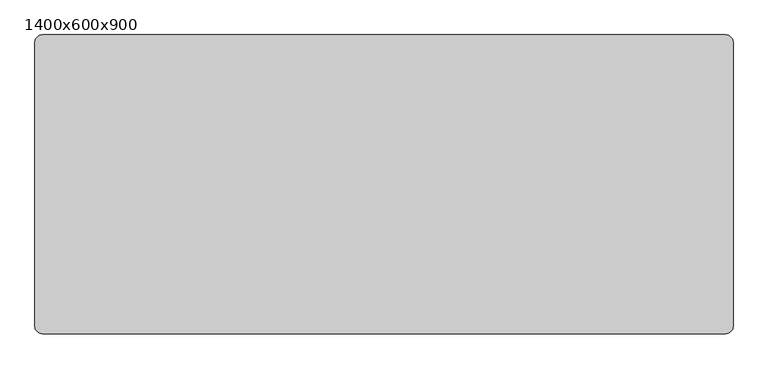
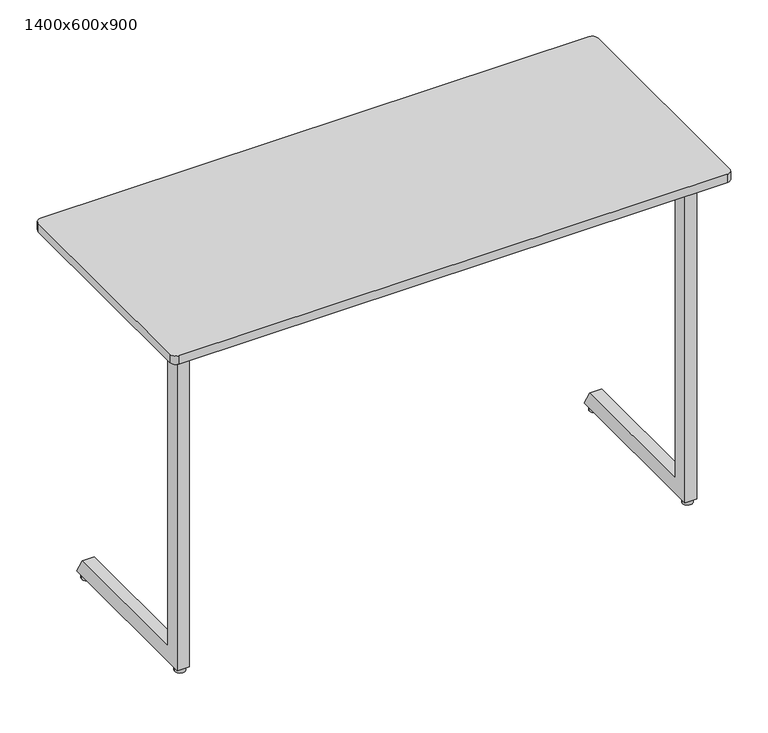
"""IFC4 building model written with IfcOpenShell, lengths in millimetres: furniture geometry, Trivia Light : 1400x600x900."""

from ifc_helpers import new_model, si_unit, point, frame, frame_2d, origin, origin_with_axes, place, context, project, spatial, polyline, circle_curve, trimmed, segment, composite_curve, outline, extrude, source, transform, mapped, element, save


def furniture_1400x600x900_4bad6f9f(model_context):
    return source(origin(), model_context, "Body", "SweptSolid", [
        extrude(outline(polyline([(484.5100173, 878.0), (469.9996059, 846.4981092), (104.0, 846.4977978), (104.0, 878.0), (484.5100173, 878.0)])), frame((-564.7535601, 0.0, 0.0), z_axis=(1.0, 0.0, 0.0), x_axis=(0.0, 1.0, 0.0)), (0.0, 0.0, 1.0), 30.0),
        extrude(outline(polyline([(873.7997437, -567.7502136), (850.730957, -567.7502136), (850.730957, -599.8065042), (855.0394353, -611.6439509), (852.2203574, -612.6700113), (847.730957, -600.3354852), (847.730957, -564.7502136), (873.7997437, -564.7502136), (873.7997437, -567.7502136)])), frame((0.0, 265.0, 0.0), z_axis=(0.0, 1.0, 0.0), x_axis=(0.0, 0.0, 1.0)), (0.0, 0.0, 1.0), 30.0),
        extrude(outline(polyline([(873.7997437, 567.7535601), (873.7997437, 564.7535601), (847.730957, 564.7535601), (847.730957, 600.3388316), (852.2203574, 612.6733577), (855.0394353, 611.6472973), (850.730957, 599.8098507), (850.730957, 567.7535601), (873.7997437, 567.7535601)])), frame((0.0, 265.0, 0.0), z_axis=(0.0, 1.0, 0.0), x_axis=(0.0, 0.0, 1.0)), (0.0, 0.0, 1.0), 30.0),
        extrude(outline(composite_curve([segment(trimmed(circle_curve(frame_2d((-635.0, 85.0)), 13.0), [point((-648.0, 85.0))], [point((-622.0, 85.0))], False, "CARTESIAN"), True, "CONTINUOUS"), segment(trimmed(circle_curve(frame_2d((-635.0, 85.0)), 13.0), [point((-622.0, 85.0))], [point((-648.0, 85.0))], False, "CARTESIAN"), True, "CONTINUOUS")], self_intersect=False)), origin_with_axes(), (0.0, 0.0, 1.0), 13.0905762),
        extrude(outline(composite_curve([segment(trimmed(circle_curve(frame_2d((635.0, 85.0)), 13.0), [point((622.0, 85.0))], [point((648.0, 85.0))], False, "CARTESIAN"), True, "CONTINUOUS"), segment(trimmed(circle_curve(frame_2d((635.0, 85.0)), 13.0), [point((648.0, 85.0))], [point((622.0, 85.0))], False, "CARTESIAN"), True, "CONTINUOUS")], self_intersect=False)), origin_with_axes(), (0.0, 0.0, 1.0), 13.0905762),
        extrude(outline(composite_curve([segment(trimmed(circle_curve(frame_2d((635.0, 487.5)), 13.0), [point((622.0, 487.5))], [point((648.0, 487.5))], False, "CARTESIAN"), True, "CONTINUOUS"), segment(trimmed(circle_curve(frame_2d((635.0, 487.5)), 13.0), [point((648.0, 487.5))], [point((622.0, 487.5))], False, "CARTESIAN"), True, "CONTINUOUS")], self_intersect=False)), origin_with_axes(), (0.0, 0.0, 1.0), 13.0905762),
        extrude(outline(composite_curve([segment(trimmed(circle_curve(frame_2d((-635.0, 487.5)), 13.0), [point((-648.0, 487.5))], [point((-622.0, 487.5))], False, "CARTESIAN"), True, "CONTINUOUS"), segment(trimmed(circle_curve(frame_2d((-635.0, 487.5)), 13.0), [point((-622.0, 487.5))], [point((-648.0, 487.5))], False, "CARTESIAN"), True, "CONTINUOUS")], self_intersect=False)), origin_with_axes(), (0.0, 0.0, 1.0), 13.0905762),
        extrude(outline(polyline([(484.5100173, 878.0), (469.9996059, 846.4981092), (104.0, 846.4977978), (104.0, 878.0), (484.5100173, 878.0)])), frame((534.7535601, 0.0, 0.0), z_axis=(1.0, 0.0, 0.0), x_axis=(0.0, 1.0, 0.0)), (0.0, 0.0, 1.0), 30.0),
        extrude(outline(composite_curve([segment(trimmed(circle_curve(frame_2d((685.0, 585.0)), 15.0), [point((685.0, 600.0))], [point((700.0, 585.0))], False, "CARTESIAN"), True, "CONTINUOUS"), segment(polyline([(700.0, 585.0), (700.0, 15.0)]), True, "CONTINUOUS"), segment(trimmed(circle_curve(frame_2d((685.0, 15.0)), 15.0), [point((700.0, 15.0))], [point((685.0, 0.0))], False, "CARTESIAN"), True, "CONTINUOUS"), segment(polyline([(685.0, 0.0), (-685.0, 0.0)]), True, "CONTINUOUS"), segment(trimmed(circle_curve(frame_2d((-685.0, 15.0)), 15.0), [point((-685.0, 0.0))], [point((-700.0, 15.0))], False, "CARTESIAN"), True, "CONTINUOUS"), segment(polyline([(-700.0, 15.0), (-700.0, 585.0)]), True, "CONTINUOUS"), segment(trimmed(circle_curve(frame_2d((-685.0, 585.0)), 15.0), [point((-700.0, 585.0))], [point((-685.0, 600.0))], False, "CARTESIAN"), True, "CONTINUOUS"), segment(polyline([(-685.0, 600.0), (685.0, 600.0)]), True, "CONTINUOUS")], self_intersect=False)), frame((0.0, 0.0, 878.0), z_axis=(0.0, 0.0, 1.0), x_axis=(1.0, 0.0, 0.0)), (0.0, 0.0, 1.0), 22.0),
        extrude(outline(polyline([(619.7534307, 104.0), (619.7534307, 74.0), (-619.7534307, 74.0), (-619.7534307, 104.0), (619.7534307, 104.0)])), frame((0.0, 0.0, 836.0), z_axis=(0.0, 0.0, 1.0), x_axis=(1.0, 0.0, 0.0)), (0.0, 0.0, 1.0), 42.0),
        extrude(outline(polyline([(112.0, 51.5905762), (482.1448423, 51.5905762), (504.8944033, 11.5905762), (70.0, 11.5905762), (70.0, 878.0), (112.0, 878.0), (112.0, 51.5905762)])), frame((-649.7535601, 0.0, 0.0), z_axis=(1.0, 0.0, 0.0), x_axis=(0.0, 1.0, 0.0)), (0.0, 0.0, 1.0), 30.0001294),
        extrude(outline(polyline([(112.0, 51.5905762), (482.1448423, 51.5905762), (504.8944033, 11.5905762), (70.0, 11.5905762), (70.0, 878.0), (112.0, 878.0), (112.0, 51.5905762)])), frame((619.7534307, 0.0, 0.0), z_axis=(1.0, 0.0, 0.0), x_axis=(0.0, 1.0, 0.0)), (0.0, 0.0, 1.0), 30.0001294),
    ])


if __name__ == "__main__":
    model = new_model("IFC4")
    model_context = context("Model", 3, world=origin())
    ifc_project = project(units=[si_unit("LENGTHUNIT", "METRE", prefix="MILLI")], contexts=[model_context])
    site = spatial("IfcSite", under=ifc_project)
    building = spatial("IfcBuilding", under=site)
    placement = place(None, origin())
    furniture_1400x600x900_shape = furniture_1400x600x900_4bad6f9f(model_context)
    element("IfcFurniture", 1, ObjectType="Trivia Light : 1400x600x900", at=placement, inside=building, context=model_context, shape_type="MappedRepresentation", body=[
        mapped(furniture_1400x600x900_shape, transform((0.0, 0.0, 0.0), x_axis=(1.0, 0.0, 0.0), y_axis=(0.0, 1.0, 0.0), z_axis=(0.0, 0.0, 1.0))),
    ])
    save(model, "model.ifc")
